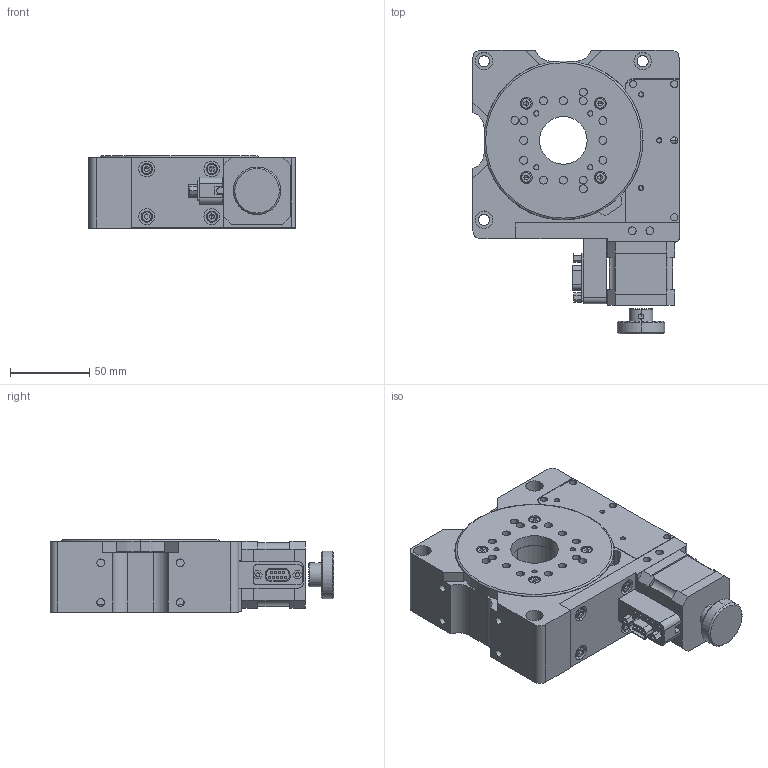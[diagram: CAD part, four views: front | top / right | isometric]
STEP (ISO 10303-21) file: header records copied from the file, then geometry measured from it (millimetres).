
FILE_DESCRIPTION (( 'STEP AP203' ), '1' );
FILE_NAME ('7SRA1100A萇雄唅蛌怢.STEP', '2018-10-08T06:27:51', ( '' ), ( '' ), 'SwSTEP 2.0', 'SolidWorks 2014', '' );
FILE_SCHEMA (( 'CONFIG_CONTROL_DESIGN' ));
Length unit declared in the file: millimetre
Products named in the file (1): 7SRA1100A萇雄唅蛌怢
Bounding box: 130 x 179 x 45.5 mm (x, y, z)
Surface area: 98944.2 mm2 (no closed solid volume)
Topology: 0 solids, 40 shells, 571 faces, 1813 edges, 1248 vertices
Faces by surface type: plane 269, cylinder 250, torus 26, cone 26
Entity records: 20319 total; most frequent: CARTESIAN_POINT 3867, DIRECTION 3676, ORIENTED_EDGE 2880, EDGE_CURVE 1793, AXIS2_PLACEMENT_3D 1322, VERTEX_POINT 1248, VECTOR 1032, LINE 1032
